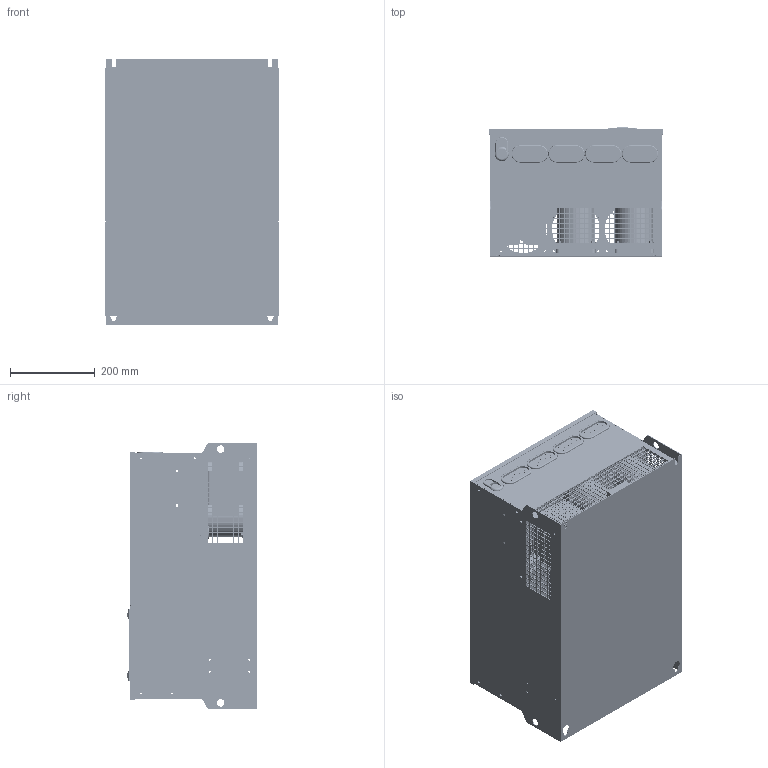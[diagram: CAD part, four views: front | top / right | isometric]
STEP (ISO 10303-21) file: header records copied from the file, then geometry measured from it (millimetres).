
FILE_DESCRIPTION((''),'2;1');
FILE_NAME('C6-E2000_ASM','2015-09-07T',('Administrator'),(''),'PRO/ENGINEER BY PARAMETRIC TECHNOLOGY CORPORATION, 2013150','PRO/ENGINEER BY PARAMETRIC TECHNOLOGY CORPORATION, 2013150','');
FILE_SCHEMA(('CONFIG_CONTROL_DESIGN'));
Products named in the file (24): 301-BOTTOM_; 302-TOP_; 305-BRACKET-FAN120_; 306-BRACKET-CAP-SUPPORT1_; 307-BRACKT-CAP-SUPPORT2_; 308-ZHIJIA_; 310-BRACKET-TOP-0730_; 311X-BRACKET-BOTTOM; 313-TOP1_; FAN_12038; DIAN_RONG_10000; CAP_PACK; DIAN_RONG_ASM; 202-CONNECT-SHEET_; 0204-P-QIAO-DIANRONG_; DCL-200-UIWC-2998; RX28-80-120R; X8013; 0201-N-QIAO-DIANRONG_; BRACKET_ASM; X8021; 0710-HOUERJYZ; X8019; C6-E2000_ASM
Assembly tree (37 placements, depth 3):
  C6-E2000_ASM
    301-BOTTOM_
    302-TOP_
    305-BRACKET-FAN120_
    306-BRACKET-CAP-SUPPORT1_
    307-BRACKT-CAP-SUPPORT2_
    308-ZHIJIA_
    310-BRACKET-TOP-0730_
    311X-BRACKET-BOTTOM
    313-TOP1_
    FAN_12038  x3
    DIAN_RONG_ASM  x4
      DIAN_RONG_10000
      CAP_PACK
    202-CONNECT-SHEET_
    0204-P-QIAO-DIANRONG_
    DCL-200-UIWC-2998
    RX28-80-120R  x2
    X8013  x4
    0201-N-QIAO-DIANRONG_  x2
    BRACKET_ASM
    X8021  x4
    0710-HOUERJYZ
    X8019
Bounding box: 411 x 305.48 x 630 mm (x, y, z)
Volume: 8113301.8 mm3; surface area: 4011355.3 mm2
Topology: 121 solids, 129 shells, 6334 faces, 17088 edges, 11127 vertices
Faces by surface type: plane 4367, cylinder 1718, torus 76, bspline 72, cone 69, sphere 32
Entity records: 167521 total; most frequent: CARTESIAN_POINT 33283, ORIENTED_EDGE 27854, DIRECTION 26548, EDGE_CURVE 13927, VECTOR 10938, LINE 10938, VERTEX_POINT 9059, AXIS2_PLACEMENT_3D 7805
